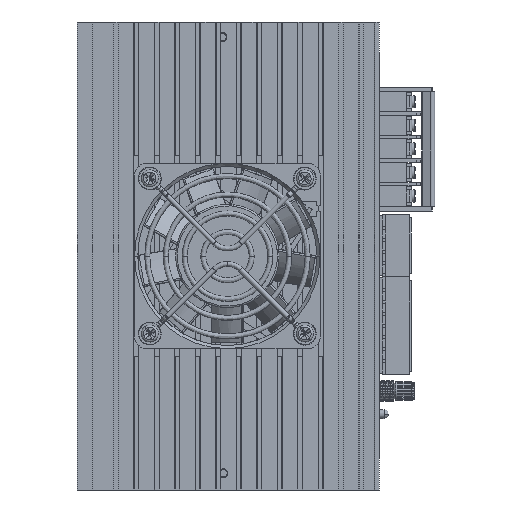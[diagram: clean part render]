
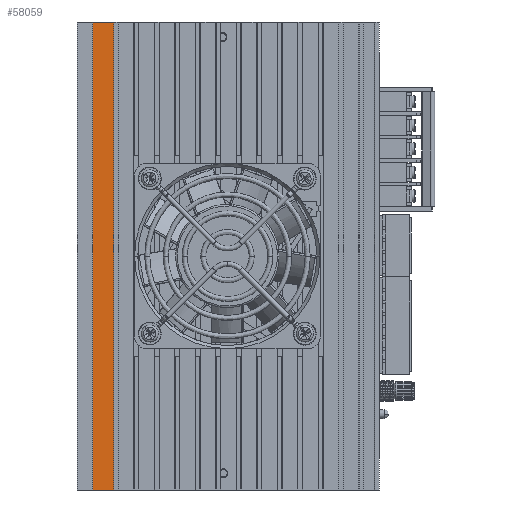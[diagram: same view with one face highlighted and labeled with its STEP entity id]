
A CAD part, front view. The second image highlights one B-rep face of the part: STEP entity #58059.
In plain terms, the highlighted planar face has unit normal (0, -1, 0).
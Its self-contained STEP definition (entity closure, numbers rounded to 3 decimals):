
#161 = DIRECTION ( 'NONE',  ( 0., 0., 1. ) ) ;
#1200 = CARTESIAN_POINT ( 'NONE',  ( 5., 18.7, 151. ) ) ;
#1429 = VECTOR ( 'NONE', #39535, 1000. ) ;
#6448 = CARTESIAN_POINT ( 'NONE',  ( 11.82, 18.7, 151. ) ) ;
#7255 = VERTEX_POINT ( 'NONE', #91040 ) ;
#14971 = ORIENTED_EDGE ( 'NONE', *, *, #27530, .T. ) ;
#18446 = DIRECTION ( 'NONE',  ( 1., 0., 0. ) ) ;
#19018 = ORIENTED_EDGE ( 'NONE', *, *, #46817, .T. ) ;
#27032 = VECTOR ( 'NONE', #98182, 1000. ) ;
#27530 = EDGE_CURVE ( 'NONE', #74159, #57245, #87276, .T. ) ;
#27602 = VECTOR ( 'NONE', #74900, 1000. ) ;
#32228 = VECTOR ( 'NONE', #18446, 1000. ) ;
#39535 = DIRECTION ( 'NONE',  ( 0., 0., -1. ) ) ;
#45211 = EDGE_CURVE ( 'NONE', #7255, #124627, #60181, .T. ) ;
#46817 = EDGE_CURVE ( 'NONE', #7255, #74159, #105347, .T. ) ;
#46895 = CARTESIAN_POINT ( 'NONE',  ( 11.82, 18.7, 151. ) ) ;
#49244 = FACE_OUTER_BOUND ( 'NONE', #125018, .T. ) ;
#51691 = EDGE_CURVE ( 'NONE', #124627, #57245, #53632, .T. ) ;
#53632 = LINE ( 'NONE', #6448, #27602 ) ;
#57245 = VERTEX_POINT ( 'NONE', #112142 ) ;
#58059 = ADVANCED_FACE ( 'NONE', ( #49244 ), #107355, .F. ) ;
#58812 = DIRECTION ( 'NONE',  ( 0., 1., 0. ) ) ;
#60181 = LINE ( 'NONE', #1200, #27032 ) ;
#74159 = VERTEX_POINT ( 'NONE', #98339 ) ;
#74900 = DIRECTION ( 'NONE',  ( 0., 0., -1. ) ) ;
#78012 = CARTESIAN_POINT ( 'NONE',  ( 5., 18.7, 151. ) ) ;
#85791 = ORIENTED_EDGE ( 'NONE', *, *, #51691, .F. ) ;
#86819 = CARTESIAN_POINT ( 'NONE',  ( 5., 18.7, 0. ) ) ;
#87276 = LINE ( 'NONE', #86819, #32228 ) ;
#88200 = CARTESIAN_POINT ( 'NONE',  ( 5., 18.7, 151. ) ) ;
#91040 = CARTESIAN_POINT ( 'NONE',  ( 5., 18.7, 151. ) ) ;
#96036 = ORIENTED_EDGE ( 'NONE', *, *, #45211, .F. ) ;
#98182 = DIRECTION ( 'NONE',  ( 1., 0., 0. ) ) ;
#98339 = CARTESIAN_POINT ( 'NONE',  ( 5., 18.7, 0. ) ) ;
#105347 = LINE ( 'NONE', #88200, #1429 ) ;
#107081 = AXIS2_PLACEMENT_3D ( 'NONE', #78012, #58812, #161 ) ;
#107355 = PLANE ( 'NONE',  #107081 ) ;
#112142 = CARTESIAN_POINT ( 'NONE',  ( 11.82, 18.7, 0. ) ) ;
#124627 = VERTEX_POINT ( 'NONE', #46895 ) ;
#125018 = EDGE_LOOP ( 'NONE', ( #14971, #85791, #96036, #19018 ) ) ;
